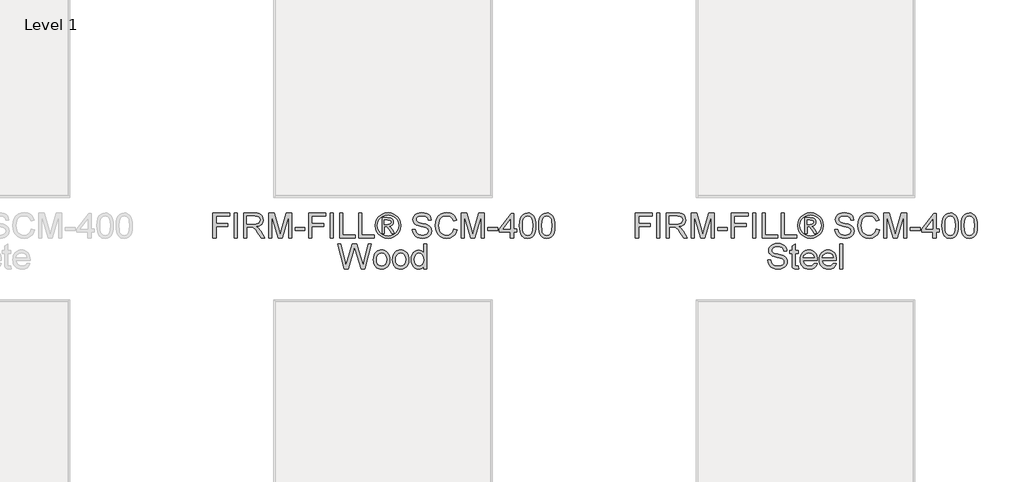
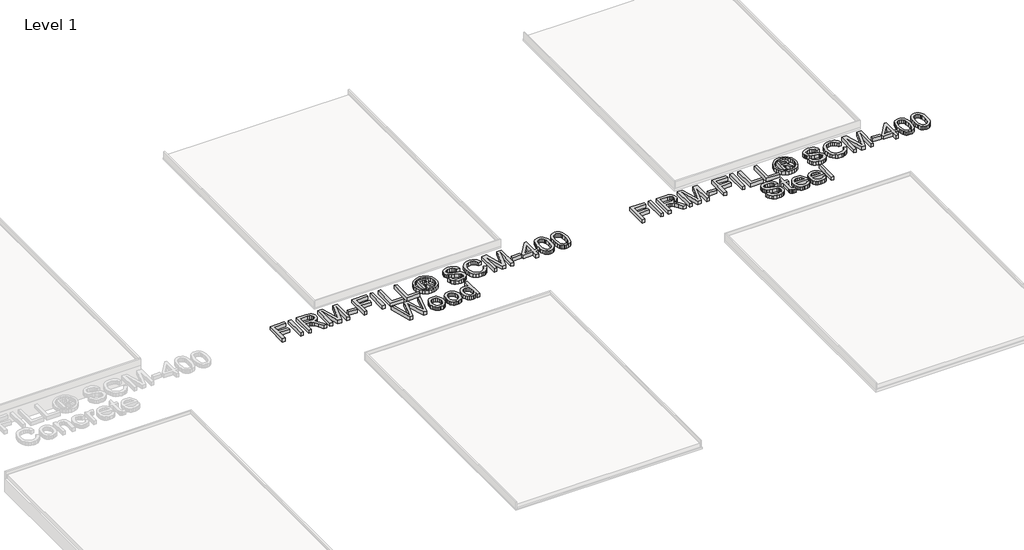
# One storey, part 8 of 10: 2 proxies.
"""IFC4 building model written with IfcOpenShell, lengths in millimetres."""

from ifc_helpers import new_model, si_unit, origin, origin_with_axes, place, context, project, spatial, polyline, outline, extrude, element, save

model = new_model("IFC4")

# Units and contexts
model_context = context("Model", 3, world=origin())
ifc_project = project(units=[si_unit("LENGTHUNIT", "METRE", prefix="MILLI")], contexts=[model_context])

# Site, building, storey
site = spatial("IfcSite", under=ifc_project)
building = spatial("IfcBuilding", under=site)
storey = spatial("IfcBuildingStorey", under=building, Name="Level 1", Elevation=0.0)

# Proxies
placement = place(None, origin())
element("IfcBuildingElementProxy", 1, Name="600mm Arial", ObjectType="600mm Arial", at=placement, inside=storey, context=model_context, shape_type="SweptSolid", body=[
    extrude(outline(polyline([(-312.4048462, -14373.5364307), (-312.4048462, -14073.4256615), (-110.7679231, -14073.4256615), (-110.7679231, -14110.9395076), (-274.891, -14110.9395076), (-274.891, -14200.0348922), (-134.2140769, -14200.0348922), (-134.2140769, -14237.5487384), (-274.891, -14237.5487384), (-274.891, -14373.5364307), (-312.4048462, -14373.5364307)])), origin_with_axes(), (0.0, 0.0, 1.0), 50.8),
    extrude(outline(polyline([(-54.4971539, -14373.5364307), (-54.4971539, -14073.4256615), (-16.9833077, -14073.4256615), (-16.9833077, -14373.5364307), (-54.4971539, -14373.5364307)])), origin_with_axes(), (0.0, 0.0, 1.0), 50.8),
    extrude(outline(polyline([(58.0443846, -14373.5364307), (58.0443846, -14073.4256615), (187.3645769, -14073.4256615), (222.1216682, -14075.449724), (247.4087115, -14081.5219115), (265.890875, -14092.7321038), (280.2333269, -14110.1701807), (289.437774, -14131.7937624), (292.5059231, -14155.5604692), (287.4228702, -14185.1246038), (272.1737115, -14209.6331615), (260.6223594, -14219.6206735), (246.3005144, -14227.6024403), (209.3453461, -14237.5487384), (230.6666923, -14253.5946999), (261.0734231, -14292.2075846), (311.1163077, -14373.5364307), (267.5211154, -14373.5364307), (228.4686154, -14311.3308538), (200.2599615, -14270.1535461), (180.4406346, -14250.7005653), (162.5995769, -14243.5568153), (140.8386154, -14242.2379692), (95.5582307, -14242.2379692), (95.5582307, -14373.5364307), (58.0443846, -14373.5364307)]), holes=[polyline([(95.5582307, -14204.724123), (179.5247692, -14204.724123), (203.6395048, -14203.3961182), (222.3506346, -14199.4121038), (236.4366442, -14192.5064788), (246.6760192, -14182.4136422), (252.9130625, -14170.2051567), (254.9920769, -14156.9525846), (251.0263798, -14138.6535942), (239.1292884, -14123.9081615), (218.6596971, -14114.1816711), (188.9765, -14110.9395076), (95.5582307, -14110.9395076), (95.5582307, -14204.724123)])]), origin_with_axes(), (0.0, 0.0, 1.0), 50.8),
    extrude(outline(polyline([(358.1551538, -14373.5364307), (358.1551538, -14073.4256615), (422.7053461, -14073.4256615), (484.1049615, -14284.9539307), (496.4874615, -14329.1352769), (509.8957307, -14281.2904692), (570.2695769, -14073.4256615), (634.8197692, -14073.4256615), (634.8197692, -14373.5364307), (597.3059231, -14373.5364307), (597.3059231, -14110.9395076), (521.9118846, -14373.5364307), (471.0630384, -14373.5364307), (395.669, -14110.9395076), (395.669, -14373.5364307), (358.1551538, -14373.5364307)])), origin_with_axes(), (0.0, 0.0, 1.0), 50.8),
    extrude(outline(polyline([(677.0228461, -14284.4410461), (677.0228461, -14246.9271999), (794.2536154, -14246.9271999), (794.2536154, -14284.4410461), (677.0228461, -14284.4410461)])), origin_with_axes(), (0.0, 0.0, 1.0), 50.8),
    extrude(outline(polyline([(841.1459231, -14373.5364307), (841.1459231, -14073.4256615), (1042.7828461, -14073.4256615), (1042.7828461, -14110.9395076), (878.6597692, -14110.9395076), (878.6597692, -14200.0348922), (1019.3366923, -14200.0348922), (1019.3366923, -14237.5487384), (878.6597692, -14237.5487384), (878.6597692, -14373.5364307), (841.1459231, -14373.5364307)])), origin_with_axes(), (0.0, 0.0, 1.0), 50.8),
    extrude(outline(polyline([(1099.0536154, -14373.5364307), (1099.0536154, -14073.4256615), (1136.5674615, -14073.4256615), (1136.5674615, -14373.5364307), (1099.0536154, -14373.5364307)])), origin_with_axes(), (0.0, 0.0, 1.0), 50.8),
    extrude(outline(polyline([(1211.5951538, -14373.5364307), (1211.5951538, -14073.4256615), (1249.109, -14073.4256615), (1249.109, -14336.0225846), (1399.1643846, -14336.0225846), (1399.1643846, -14373.5364307), (1211.5951538, -14373.5364307)])), origin_with_axes(), (0.0, 0.0, 1.0), 50.8),
    extrude(outline(polyline([(1441.3674615, -14373.5364307), (1441.3674615, -14073.4256615), (1478.8813077, -14073.4256615), (1478.8813077, -14336.0225846), (1628.9366923, -14336.0225846), (1628.9366923, -14373.5364307), (1441.3674615, -14373.5364307)])), origin_with_axes(), (0.0, 0.0, 1.0), 50.8),
    extrude(outline(polyline([(1722.7213077, -14317.2656615), (1722.7213077, -14129.6964307), (1783.3149615, -14129.6964307), (1810.0948654, -14130.9878009), (1828.3022692, -14134.8619115), (1840.8038317, -14141.9507096), (1850.4662115, -14152.8861422), (1856.6483029, -14166.1570317), (1858.709, -14180.2521999), (1855.1554423, -14199.3754692), (1844.4947692, -14215.8610461), (1827.9725577, -14227.6940269), (1806.8343846, -14232.8595076), (1821.4882307, -14242.824123), (1847.0591923, -14280.2646999), (1868.0874615, -14317.2656615), (1836.4351538, -14317.2656615), (1819.9495769, -14287.5183538), (1792.3270769, -14244.4360461), (1782.2342404, -14239.014123), (1768.3680384, -14237.5487384), (1750.8566923, -14237.5487384), (1750.8566923, -14317.2656615), (1722.7213077, -14317.2656615)]), holes=[polyline([(1750.8566923, -14209.4133538), (1786.4655384, -14209.4133538), (1807.9151057, -14207.6274163), (1821.2684231, -14202.2696038), (1828.2473173, -14193.9627047), (1830.5736154, -14183.3295076), (1826.1041923, -14169.7014307), (1813.6850577, -14160.7625846), (1784.1941923, -14157.8318153), (1750.8566923, -14157.8318153), (1750.8566923, -14209.4133538)])]), origin_with_axes(), (0.0, 0.0, 1.0), 50.8),
    extrude(outline(polyline([(1793.1330384, -14068.7364307), (1831.6543365, -14073.7370557), (1869.2597692, -14088.7389307), (1902.2950336, -14113.045998), (1927.1058269, -14145.9621999), (1942.6297452, -14183.9706134), (1947.8043846, -14223.5543153), (1942.7030144, -14262.7899884), (1927.3989038, -14300.4870076), (1902.8903461, -14333.2841471), (1870.1756346, -14357.8201807), (1832.5060913, -14373.1242913), (1793.1330384, -14378.2256615), (1753.8149375, -14373.1242913), (1716.1637115, -14357.8201807), (1683.421524, -14333.2841471), (1658.8305384, -14300.4870076), (1643.444, -14262.7899884), (1638.3151538, -14223.5543153), (1643.5172692, -14183.9706134), (1659.1236154, -14145.9621999), (1684.0168365, -14113.045998), (1717.0795769, -14088.7389307), (1754.6666923, -14073.7370557), (1793.1330384, -14068.7364307)]), holes=[polyline([(1793.1330384, -14096.8718153), (1761.6089519, -14100.9657336), (1730.9274615, -14113.2474884), (1703.9552259, -14133.1492432), (1683.5589038, -14160.1031615), (1670.7276298, -14191.2059499), (1666.4505384, -14223.5543153), (1670.6452019, -14255.6920317), (1683.2291923, -14286.4559499), (1703.3599134, -14313.2083778), (1730.1947692, -14333.311623), (1761.0227981, -14345.8956134), (1793.1330384, -14350.0902769), (1825.2890721, -14345.8956134), (1856.1079423, -14333.311623), (1882.8970048, -14313.2083778), (1902.9636154, -14286.4559499), (1915.4926538, -14255.6920317), (1919.669, -14223.5543153), (1915.4193846, -14191.2059499), (1902.6705384, -14160.1031615), (1882.3291682, -14133.1492432), (1855.3019807, -14113.2474884), (1824.5746971, -14100.9657336), (1793.1330384, -14096.8718153)])]), origin_with_axes(), (0.0, 0.0, 1.0), 50.8),
    extrude(outline(polyline([(2083.7920769, -14270.3733538), (2121.3059231, -14270.3733538), (2125.6104904, -14291.190974), (2133.3953461, -14307.9238346), (2145.5397211, -14321.2038826), (2162.9228461, -14331.6630653), (2184.1709231, -14338.4496278), (2207.9101538, -14340.7118153), (2228.8102019, -14338.9991471), (2247.1091923, -14333.8611422), (2261.9370529, -14325.7282576), (2272.4237115, -14315.0309499), (2278.6607548, -14302.7491951), (2280.7397692, -14289.8629692), (2279.1827981, -14277.3064547), (2274.5118846, -14266.4534499), (2265.0235192, -14257.1940509), (2249.0141923, -14249.4183538), (2194.3919807, -14235.0942192), (2158.5358509, -14225.6150124), (2135.5934231, -14216.5937384), (2116.9189279, -14203.9731134), (2103.6846731, -14188.6781615), (2095.7990721, -14171.0385942), (2093.1705384, -14151.384123), (2096.4218606, -14129.4125124), (2106.1758269, -14108.9246038), (2122.1759952, -14091.5597961), (2144.1659231, -14078.9574884), (2170.5611634, -14071.2916951), (2199.7772692, -14068.7364307), (2231.4295769, -14071.4107576), (2259.1253461, -14079.4337384), (2281.8754423, -14092.6405172), (2298.6907307, -14110.8662384), (2309.3330865, -14132.9752288), (2313.5643846, -14157.8318153), (2276.0505384, -14157.8318153), (2269.1632307, -14135.4480653), (2254.8024615, -14119.2921999), (2232.3637596, -14109.5107576), (2201.2426538, -14106.2502769), (2169.3888557, -14109.474123), (2147.5363077, -14119.1456615), (2134.8973654, -14133.3782096), (2130.6843846, -14150.2850846), (2133.6701057, -14164.7008057), (2142.6272692, -14176.2956615), (2163.8020769, -14186.6632576), (2203.8803461, -14197.2506615), (2245.2408269, -14207.3068634), (2270.2622692, -14216.0808538), (2291.6477259, -14229.6906134), (2306.5671731, -14246.4875846), (2315.3320048, -14266.2885942), (2318.2536154, -14288.9104692), (2314.8923894, -14312.0360701), (2304.8087115, -14333.787873), (2288.4147211, -14352.5081615), (2266.1225577, -14366.5392192), (2239.3151779, -14375.3040509), (2209.3755384, -14378.2256615), (2172.6218606, -14375.0750846), (2142.3708269, -14365.6233538), (2118.2744086, -14349.8338346), (2099.9845769, -14327.6698922), (2088.2431827, -14300.6701807), (2083.7920769, -14270.3733538)])), origin_with_axes(), (0.0, 0.0, 1.0), 50.8),
    extrude(outline(polyline([(2585.5397692, -14266.8564307), (2623.0536154, -14276.5279692), (2615.6305264, -14299.8573502), (2605.7437596, -14320.242224), (2593.3933149, -14337.6825906), (2578.5791923, -14352.1784499), (2561.6356827, -14363.574105), (2542.8970769, -14371.7138586), (2522.363375, -14376.5977108), (2500.0345769, -14378.2256615), (2456.5218125, -14373.2983057), (2421.9662115, -14358.5162384), (2395.4793846, -14334.3923442), (2376.1729423, -14301.4395076), (2364.3857548, -14262.6984019), (2360.4566923, -14221.2096999), (2364.8986394, -14177.4496519), (2378.2244807, -14139.6610461), (2399.7381586, -14109.0436663), (2428.7436154, -14086.7972961), (2463.1435192, -14073.2516471), (2500.8405384, -14068.7364307), (2541.9720529, -14074.5796519), (2559.8657728, -14081.8836783), (2575.9781346, -14092.1093153), (2590.0435372, -14104.9863826), (2601.7963798, -14120.2446999), (2618.3643846, -14157.9050846), (2580.8505384, -14166.8439307), (2567.84525, -14139.4870317), (2550.0774615, -14120.7209499), (2527.3273654, -14109.8679451), (2499.3751538, -14106.2502769), (2467.1550096, -14110.2617672), (2440.6865, -14122.2962384), (2420.6015721, -14141.0897961), (2407.5321731, -14165.3785461), (2400.3609471, -14192.8361903), (2397.9705384, -14221.1364307), (2400.8005625, -14255.7927769), (2409.2906346, -14285.7598922), (2423.7613077, -14309.8929451), (2444.5331346, -14327.0471038), (2469.4355144, -14337.2956374), (2496.2978461, -14340.7118153), (2527.6112836, -14336.0592192), (2553.7042884, -14322.1014307), (2573.4045529, -14298.9849884), (2585.5397692, -14266.8564307)])), origin_with_axes(), (0.0, 0.0, 1.0), 50.8),
    extrude(outline(polyline([(2674.6351538, -14373.5364307), (2674.6351538, -14073.4256615), (2739.1853461, -14073.4256615), (2800.5849615, -14284.9539307), (2812.9674615, -14329.1352769), (2826.3757307, -14281.2904692), (2886.7495769, -14073.4256615), (2951.2997692, -14073.4256615), (2951.2997692, -14373.5364307), (2913.7859231, -14373.5364307), (2913.7859231, -14110.9395076), (2838.3918846, -14373.5364307), (2787.5430384, -14373.5364307), (2712.149, -14110.9395076), (2712.149, -14373.5364307), (2674.6351538, -14373.5364307)])), origin_with_axes(), (0.0, 0.0, 1.0), 50.8),
    extrude(outline(polyline([(2993.5028461, -14284.4410461), (2993.5028461, -14246.9271999), (3110.7336154, -14246.9271999), (3110.7336154, -14284.4410461), (2993.5028461, -14284.4410461)])), origin_with_axes(), (0.0, 0.0, 1.0), 50.8),
    extrude(outline(polyline([(3265.4782307, -14373.5364307), (3265.4782307, -14303.1979692), (3129.4905384, -14303.1979692), (3129.4905384, -14265.684123), (3274.8566923, -14078.1148922), (3302.9920769, -14078.1148922), (3302.9920769, -14265.684123), (3340.5059231, -14265.684123), (3340.5059231, -14303.1979692), (3302.9920769, -14303.1979692), (3302.9920769, -14373.5364307), (3265.4782307, -14373.5364307)]), holes=[polyline([(3265.4782307, -14265.684123), (3265.4782307, -14149.7721999), (3175.6501538, -14265.684123), (3265.4782307, -14265.684123)])]), origin_with_axes(), (0.0, 0.0, 1.0), 50.8),
    extrude(outline(polyline([(3373.3305384, -14225.8989307), (3376.0872932, -14177.8617913), (3384.3575577, -14139.5511422), (3398.0589038, -14110.3808297), (3417.1089038, -14089.7646999), (3441.6449375, -14077.5104211), (3471.8043846, -14073.4256615), (3494.9208269, -14075.8435461), (3515.6193846, -14083.0971999), (3532.9292404, -14094.9027047), (3545.8795769, -14110.9761422), (3555.6610192, -14131.1801326), (3563.4641923, -14155.3772961), (3568.5747211, -14186.1045797), (3570.2782307, -14225.8989307), (3567.5489519, -14273.6613105), (3559.3611154, -14311.880373), (3545.7421971, -14341.0781615), (3526.7196731, -14361.7767192), (3502.1286875, -14374.1134259), (3471.8043846, -14378.2256615), (3451.1424615, -14376.439724), (3432.8251538, -14371.0819115), (3416.8524615, -14362.152224), (3403.2243846, -14349.6506615), (3390.1458269, -14327.0516831), (3380.804, -14298.8934019), (3375.1989038, -14265.1758177), (3373.3305384, -14225.8989307)]), holes=[polyline([(3410.8443846, -14225.8256615), (3415.2405384, -14284.8348682), (3420.7357307, -14305.0182516), (3428.429, -14318.9874884), (3448.0651538, -14335.2807336), (3471.8043846, -14340.7118153), (3495.5436154, -14335.2624163), (3515.1797692, -14318.9142192), (3522.8730384, -14304.9220858), (3528.3682307, -14284.7432817), (3532.7643846, -14225.8256615), (3528.5147692, -14168.1444596), (3523.20275, -14148.0274764), (3515.7659231, -14133.7262384), (3496.1664038, -14116.6361903), (3471.3647692, -14110.9395076), (3447.8819807, -14115.9584499), (3429.0151538, -14131.0152769), (3421.0654423, -14146.5849884), (3415.3870769, -14167.576623), (3410.8443846, -14225.8256615)])]), origin_with_axes(), (0.0, 0.0, 1.0), 50.8),
    extrude(outline(polyline([(3603.1028461, -14225.8989307), (3605.8596009, -14177.8617913), (3614.1298654, -14139.5511422), (3627.8312115, -14110.3808297), (3646.8812115, -14089.7646999), (3671.4172452, -14077.5104211), (3701.5766923, -14073.4256615), (3724.6931346, -14075.8435461), (3745.3916923, -14083.0971999), (3762.7015481, -14094.9027047), (3775.6518846, -14110.9761422), (3785.4333269, -14131.1801326), (3793.2365, -14155.3772961), (3798.3470288, -14186.1045797), (3800.0505384, -14225.8989307), (3797.3212596, -14273.6613105), (3789.1334231, -14311.880373), (3775.5145048, -14341.0781615), (3756.4919807, -14361.7767192), (3731.9009952, -14374.1134259), (3701.5766923, -14378.2256615), (3680.9147692, -14376.439724), (3662.5974615, -14371.0819115), (3646.6247692, -14362.152224), (3632.9966923, -14349.6506615), (3619.9181346, -14327.0516831), (3610.5763077, -14298.8934019), (3604.9712115, -14265.1758177), (3603.1028461, -14225.8989307)]), holes=[polyline([(3640.6166923, -14225.8256615), (3645.0128461, -14284.8348682), (3650.5080384, -14305.0182516), (3658.2013077, -14318.9874884), (3677.8374615, -14335.2807336), (3701.5766923, -14340.7118153), (3725.3159231, -14335.2624163), (3744.9520769, -14318.9142192), (3752.6453461, -14304.9220858), (3758.1405384, -14284.7432817), (3762.5366923, -14225.8256615), (3758.2870769, -14168.1444596), (3752.9750577, -14148.0274764), (3745.5382307, -14133.7262384), (3725.9387115, -14116.6361903), (3701.1370769, -14110.9395076), (3677.6542884, -14115.9584499), (3658.7874615, -14131.0152769), (3650.83775, -14146.5849884), (3645.1593846, -14167.576623), (3640.6166923, -14225.8256615)])]), origin_with_axes(), (0.0, 0.0, 1.0), 50.8),
    extrude(outline(polyline([(1267.6461154, -14743.9856615), (1185.8043846, -14443.8748922), (1224.4905384, -14443.8748922), (1271.969, -14641.1156615), (1286.6228461, -14702.0023922), (1302.3024615, -14648.1495076), (1361.7970769, -14443.8748922), (1417.5549615, -14443.8748922), (1460.7838077, -14591.9520076), (1479.3026057, -14646.9039307), (1492.949, -14702.0023922), (1507.1632307, -14642.874123), (1555.0813077, -14443.8748922), (1593.7674615, -14443.8748922), (1511.8524615, -14743.9856615), (1471.7741923, -14743.9856615), (1399.8238077, -14512.4548922), (1389.7859231, -14480.1431615), (1378.5024615, -14519.049123), (1312.9265, -14743.9856615), (1267.6461154, -14743.9856615)])), origin_with_axes(), (0.0, 0.0, 1.0), 50.8),
    extrude(outline(polyline([(1617.2136154, -14633.7887384), (1619.2422572, -14605.2457937), (1625.3281827, -14580.6502288), (1635.4713918, -14560.0020437), (1649.6718846, -14543.3012384), (1663.9685432, -14532.6268273), (1679.7489038, -14525.002248), (1697.0129663, -14520.4275004), (1715.7607307, -14518.9025846), (1736.4569988, -14520.7595016), (1755.1704182, -14526.3302528), (1771.9009892, -14535.6148382), (1786.6487115, -14548.6132576), (1798.6854723, -14564.8858959), (1807.2831586, -14583.9931374), (1812.4417704, -14605.9349824), (1814.1613077, -14630.7114307), (1811.1206346, -14668.6099403), (1801.9986154, -14697.4596999), (1787.0608509, -14719.0649644), (1766.5729423, -14735.2299884), (1742.238399, -14745.3136663), (1715.7607307, -14748.6748922), (1694.7622271, -14746.8248442), (1675.8747932, -14741.2746999), (1659.0984291, -14732.0244596), (1644.4331346, -14719.074123), (1632.5245949, -14702.643498), (1624.0184952, -14682.9523922), (1618.9148353, -14660.0008057), (1617.2136154, -14633.7887384)]), holes=[polyline([(1654.7274615, -14633.7154692), (1659.0686634, -14667.666599), (1672.0922692, -14691.8546038), (1691.6917884, -14706.3344355), (1715.7607307, -14711.1610461), (1739.7197692, -14706.3069596), (1759.2826538, -14691.7446999), (1772.3062596, -14667.2361422), (1776.6474615, -14632.5431615), (1772.2787836, -14599.5811663), (1759.17275, -14575.722873), (1739.5823894, -14561.2430413), (1715.7607307, -14556.4164307), (1691.6917884, -14561.224724), (1672.0922692, -14575.6496038), (1659.0686634, -14599.7826567), (1654.7274615, -14633.7154692)])]), origin_with_axes(), (0.0, 0.0, 1.0), 50.8),
    extrude(outline(polyline([(1846.9859231, -14633.7887384), (1849.0145649, -14605.2457937), (1855.1004904, -14580.6502288), (1865.2436995, -14560.0020437), (1879.4441923, -14543.3012384), (1893.7408509, -14532.6268273), (1909.5212115, -14525.002248), (1926.785274, -14520.4275004), (1945.5330384, -14518.9025846), (1966.2293065, -14520.7595016), (1984.9427259, -14526.3302528), (2001.6732969, -14535.6148382), (2016.4210192, -14548.6132576), (2028.45778, -14564.8858959), (2037.0554663, -14583.9931374), (2042.2140781, -14605.9349824), (2043.9336154, -14630.7114307), (2040.8929423, -14668.6099403), (2031.7709231, -14697.4596999), (2016.8331586, -14719.0649644), (1996.34525, -14735.2299884), (1972.0107067, -14745.3136663), (1945.5330384, -14748.6748922), (1924.5345348, -14746.8248442), (1905.6471009, -14741.2746999), (1888.8707368, -14732.0244596), (1874.2054423, -14719.074123), (1862.2969026, -14702.643498), (1853.7908029, -14682.9523922), (1848.687143, -14660.0008057), (1846.9859231, -14633.7887384)]), holes=[polyline([(1884.4997692, -14633.7154692), (1888.8409711, -14667.666599), (1901.8645769, -14691.8546038), (1921.4640961, -14706.3344355), (1945.5330384, -14711.1610461), (1969.4920769, -14706.3069596), (1989.0549615, -14691.7446999), (2002.0785673, -14667.2361422), (2006.4197692, -14632.5431615), (2002.0510913, -14599.5811663), (1988.9450577, -14575.722873), (1969.3546971, -14561.2430413), (1945.5330384, -14556.4164307), (1921.4640961, -14561.224724), (1901.8645769, -14575.6496038), (1888.8409711, -14599.7826567), (1884.4997692, -14633.7154692)])]), origin_with_axes(), (0.0, 0.0, 1.0), 50.8),
    extrude(outline(polyline([(2222.1243846, -14743.9856615), (2222.1243846, -14708.596623), (2210.9004543, -14726.1308658), (2197.3044327, -14738.6553249), (2181.3363197, -14746.1700004), (2162.9961154, -14748.6748922), (2138.744, -14745.0480653), (2116.5434231, -14734.1675846), (2097.7498654, -14716.7936182), (2083.7188077, -14693.6863346), (2074.9814519, -14665.7799163), (2072.069, -14634.0085461), (2074.7524856, -14602.630998), (2082.8029423, -14574.294123), (2096.2112115, -14550.6098442), (2114.9681346, -14533.1900846), (2137.6541202, -14522.4744596), (2162.8495769, -14518.9025846), (2181.2035192, -14521.457849), (2197.4326538, -14529.1236422), (2211.1889519, -14540.8741951), (2222.1243846, -14555.6837384), (2222.1243846, -14443.8748922), (2259.6382307, -14443.8748922), (2259.6382307, -14743.9856615), (2222.1243846, -14743.9856615)]), holes=[polyline([(2109.5828461, -14633.8620076), (2113.8141442, -14667.7948201), (2126.5080384, -14691.927873), (2144.9535673, -14706.3527528), (2166.4397692, -14711.1610461), (2187.9168125, -14706.5725605), (2205.89525, -14692.8071038), (2218.0671009, -14669.6082336), (2222.1243846, -14636.7195076), (2217.9938317, -14600.7626326), (2205.6021731, -14575.8327769), (2187.1658029, -14561.2705172), (2164.9011154, -14556.4164307), (2143.1951057, -14561.0781855), (2125.409, -14575.0634499), (2113.5393846, -14599.086599), (2109.5828461, -14633.8620076)])]), origin_with_axes(), (0.0, 0.0, 1.0), 50.8),
])
element("IfcBuildingElementProxy", 2, Name="600mm Arial", ObjectType="600mm Arial", at=placement, inside=storey, context=model_context, shape_type="SweptSolid", body=[
    extrude(outline(polyline([(4767.5951538, -14373.5364307), (4767.5951538, -14073.4256615), (4969.2320769, -14073.4256615), (4969.2320769, -14110.9395076), (4805.109, -14110.9395076), (4805.109, -14200.0348922), (4945.7859231, -14200.0348922), (4945.7859231, -14237.5487384), (4805.109, -14237.5487384), (4805.109, -14373.5364307), (4767.5951538, -14373.5364307)])), origin_with_axes(), (0.0, 0.0, 1.0), 50.8),
    extrude(outline(polyline([(5025.5028461, -14373.5364307), (5025.5028461, -14073.4256615), (5063.0166923, -14073.4256615), (5063.0166923, -14373.5364307), (5025.5028461, -14373.5364307)])), origin_with_axes(), (0.0, 0.0, 1.0), 50.8),
    extrude(outline(polyline([(5138.0443846, -14373.5364307), (5138.0443846, -14073.4256615), (5267.3645769, -14073.4256615), (5302.1216682, -14075.449724), (5327.4087115, -14081.5219115), (5345.890875, -14092.7321038), (5360.2333269, -14110.1701807), (5369.437774, -14131.7937624), (5372.5059231, -14155.5604692), (5367.4228702, -14185.1246038), (5352.1737115, -14209.6331615), (5340.6223594, -14219.6206735), (5326.3005144, -14227.6024403), (5289.3453461, -14237.5487384), (5310.6666923, -14253.5946999), (5341.0734231, -14292.2075846), (5391.1163077, -14373.5364307), (5347.5211154, -14373.5364307), (5308.4686154, -14311.3308538), (5280.2599615, -14270.1535461), (5260.4406346, -14250.7005653), (5242.5995769, -14243.5568153), (5220.8386154, -14242.2379692), (5175.5582307, -14242.2379692), (5175.5582307, -14373.5364307), (5138.0443846, -14373.5364307)]), holes=[polyline([(5175.5582307, -14204.724123), (5259.5247692, -14204.724123), (5283.6395048, -14203.3961182), (5302.3506346, -14199.4121038), (5316.4366442, -14192.5064788), (5326.6760192, -14182.4136422), (5332.9130625, -14170.2051567), (5334.9920769, -14156.9525846), (5331.0263798, -14138.6535942), (5319.1292884, -14123.9081615), (5298.6596971, -14114.1816711), (5268.9765, -14110.9395076), (5175.5582307, -14110.9395076), (5175.5582307, -14204.724123)])]), origin_with_axes(), (0.0, 0.0, 1.0), 50.8),
    extrude(outline(polyline([(5438.1551538, -14373.5364307), (5438.1551538, -14073.4256615), (5502.7053461, -14073.4256615), (5564.1049615, -14284.9539307), (5576.4874615, -14329.1352769), (5589.8957307, -14281.2904692), (5650.2695769, -14073.4256615), (5714.8197692, -14073.4256615), (5714.8197692, -14373.5364307), (5677.3059231, -14373.5364307), (5677.3059231, -14110.9395076), (5601.9118846, -14373.5364307), (5551.0630384, -14373.5364307), (5475.669, -14110.9395076), (5475.669, -14373.5364307), (5438.1551538, -14373.5364307)])), origin_with_axes(), (0.0, 0.0, 1.0), 50.8),
    extrude(outline(polyline([(5757.0228461, -14284.4410461), (5757.0228461, -14246.9271999), (5874.2536154, -14246.9271999), (5874.2536154, -14284.4410461), (5757.0228461, -14284.4410461)])), origin_with_axes(), (0.0, 0.0, 1.0), 50.8),
    extrude(outline(polyline([(5921.1459231, -14373.5364307), (5921.1459231, -14073.4256615), (6122.7828461, -14073.4256615), (6122.7828461, -14110.9395076), (5958.6597692, -14110.9395076), (5958.6597692, -14200.0348922), (6099.3366923, -14200.0348922), (6099.3366923, -14237.5487384), (5958.6597692, -14237.5487384), (5958.6597692, -14373.5364307), (5921.1459231, -14373.5364307)])), origin_with_axes(), (0.0, 0.0, 1.0), 50.8),
    extrude(outline(polyline([(6179.0536154, -14373.5364307), (6179.0536154, -14073.4256615), (6216.5674615, -14073.4256615), (6216.5674615, -14373.5364307), (6179.0536154, -14373.5364307)])), origin_with_axes(), (0.0, 0.0, 1.0), 50.8),
    extrude(outline(polyline([(6291.5951538, -14373.5364307), (6291.5951538, -14073.4256615), (6329.109, -14073.4256615), (6329.109, -14336.0225846), (6479.1643846, -14336.0225846), (6479.1643846, -14373.5364307), (6291.5951538, -14373.5364307)])), origin_with_axes(), (0.0, 0.0, 1.0), 50.8),
    extrude(outline(polyline([(6521.3674615, -14373.5364307), (6521.3674615, -14073.4256615), (6558.8813077, -14073.4256615), (6558.8813077, -14336.0225846), (6708.9366923, -14336.0225846), (6708.9366923, -14373.5364307), (6521.3674615, -14373.5364307)])), origin_with_axes(), (0.0, 0.0, 1.0), 50.8),
    extrude(outline(polyline([(6802.7213077, -14317.2656615), (6802.7213077, -14129.6964307), (6863.3149615, -14129.6964307), (6890.0948654, -14130.9878009), (6908.3022692, -14134.8619115), (6920.8038317, -14141.9507096), (6930.4662115, -14152.8861422), (6936.6483029, -14166.1570317), (6938.709, -14180.2521999), (6935.1554423, -14199.3754692), (6924.4947692, -14215.8610461), (6907.9725577, -14227.6940269), (6886.8343846, -14232.8595076), (6901.4882307, -14242.824123), (6927.0591923, -14280.2646999), (6948.0874615, -14317.2656615), (6916.4351538, -14317.2656615), (6899.9495769, -14287.5183538), (6872.3270769, -14244.4360461), (6862.2342404, -14239.014123), (6848.3680384, -14237.5487384), (6830.8566923, -14237.5487384), (6830.8566923, -14317.2656615), (6802.7213077, -14317.2656615)]), holes=[polyline([(6830.8566923, -14209.4133538), (6866.4655384, -14209.4133538), (6887.9151057, -14207.6274163), (6901.2684231, -14202.2696038), (6908.2473173, -14193.9627047), (6910.5736154, -14183.3295076), (6906.1041923, -14169.7014307), (6893.6850577, -14160.7625846), (6864.1941923, -14157.8318153), (6830.8566923, -14157.8318153), (6830.8566923, -14209.4133538)])]), origin_with_axes(), (0.0, 0.0, 1.0), 50.8),
    extrude(outline(polyline([(6873.1330384, -14068.7364307), (6911.6543365, -14073.7370557), (6949.2597692, -14088.7389307), (6982.2950336, -14113.045998), (7007.1058269, -14145.9621999), (7022.6297452, -14183.9706134), (7027.8043846, -14223.5543153), (7022.7030144, -14262.7899884), (7007.3989038, -14300.4870076), (6982.8903461, -14333.2841471), (6950.1756346, -14357.8201807), (6912.5060913, -14373.1242913), (6873.1330384, -14378.2256615), (6833.8149375, -14373.1242913), (6796.1637115, -14357.8201807), (6763.421524, -14333.2841471), (6738.8305384, -14300.4870076), (6723.444, -14262.7899884), (6718.3151538, -14223.5543153), (6723.5172692, -14183.9706134), (6739.1236154, -14145.9621999), (6764.0168365, -14113.045998), (6797.0795769, -14088.7389307), (6834.6666923, -14073.7370557), (6873.1330384, -14068.7364307)]), holes=[polyline([(6873.1330384, -14096.8718153), (6841.6089519, -14100.9657336), (6810.9274615, -14113.2474884), (6783.9552259, -14133.1492432), (6763.5589038, -14160.1031615), (6750.7276298, -14191.2059499), (6746.4505384, -14223.5543153), (6750.6452019, -14255.6920317), (6763.2291923, -14286.4559499), (6783.3599134, -14313.2083778), (6810.1947692, -14333.311623), (6841.0227981, -14345.8956134), (6873.1330384, -14350.0902769), (6905.2890721, -14345.8956134), (6936.1079423, -14333.311623), (6962.8970048, -14313.2083778), (6982.9636154, -14286.4559499), (6995.4926538, -14255.6920317), (6999.669, -14223.5543153), (6995.4193846, -14191.2059499), (6982.6705384, -14160.1031615), (6962.3291682, -14133.1492432), (6935.3019807, -14113.2474884), (6904.5746971, -14100.9657336), (6873.1330384, -14096.8718153)])]), origin_with_axes(), (0.0, 0.0, 1.0), 50.8),
    extrude(outline(polyline([(7163.7920769, -14270.3733538), (7201.3059231, -14270.3733538), (7205.6104904, -14291.190974), (7213.3953461, -14307.9238346), (7225.5397211, -14321.2038826), (7242.9228461, -14331.6630653), (7264.1709231, -14338.4496278), (7287.9101538, -14340.7118153), (7308.8102019, -14338.9991471), (7327.1091923, -14333.8611422), (7341.9370529, -14325.7282576), (7352.4237115, -14315.0309499), (7358.6607548, -14302.7491951), (7360.7397692, -14289.8629692), (7359.1827981, -14277.3064547), (7354.5118846, -14266.4534499), (7345.0235192, -14257.1940509), (7329.0141923, -14249.4183538), (7274.3919807, -14235.0942192), (7238.5358509, -14225.6150124), (7215.5934231, -14216.5937384), (7196.9189279, -14203.9731134), (7183.6846731, -14188.6781615), (7175.7990721, -14171.0385942), (7173.1705384, -14151.384123), (7176.4218606, -14129.4125124), (7186.1758269, -14108.9246038), (7202.1759952, -14091.5597961), (7224.1659231, -14078.9574884), (7250.5611634, -14071.2916951), (7279.7772692, -14068.7364307), (7311.4295769, -14071.4107576), (7339.1253461, -14079.4337384), (7361.8754423, -14092.6405172), (7378.6907307, -14110.8662384), (7389.3330865, -14132.9752288), (7393.5643846, -14157.8318153), (7356.0505384, -14157.8318153), (7349.1632307, -14135.4480653), (7334.8024615, -14119.2921999), (7312.3637596, -14109.5107576), (7281.2426538, -14106.2502769), (7249.3888557, -14109.474123), (7227.5363077, -14119.1456615), (7214.8973654, -14133.3782096), (7210.6843846, -14150.2850846), (7213.6701057, -14164.7008057), (7222.6272692, -14176.2956615), (7243.8020769, -14186.6632576), (7283.8803461, -14197.2506615), (7325.2408269, -14207.3068634), (7350.2622692, -14216.0808538), (7371.6477259, -14229.6906134), (7386.5671731, -14246.4875846), (7395.3320048, -14266.2885942), (7398.2536154, -14288.9104692), (7394.8923894, -14312.0360701), (7384.8087115, -14333.787873), (7368.4147211, -14352.5081615), (7346.1225577, -14366.5392192), (7319.3151779, -14375.3040509), (7289.3755384, -14378.2256615), (7252.6218606, -14375.0750846), (7222.3708269, -14365.6233538), (7198.2744086, -14349.8338346), (7179.9845769, -14327.6698922), (7168.2431827, -14300.6701807), (7163.7920769, -14270.3733538)])), origin_with_axes(), (0.0, 0.0, 1.0), 50.8),
    extrude(outline(polyline([(7665.5397692, -14266.8564307), (7703.0536154, -14276.5279692), (7695.6305264, -14299.8573502), (7685.7437596, -14320.242224), (7673.3933149, -14337.6825906), (7658.5791923, -14352.1784499), (7641.6356827, -14363.574105), (7622.8970769, -14371.7138586), (7602.363375, -14376.5977108), (7580.0345769, -14378.2256615), (7536.5218125, -14373.2983057), (7501.9662115, -14358.5162384), (7475.4793846, -14334.3923442), (7456.1729423, -14301.4395076), (7444.3857548, -14262.6984019), (7440.4566923, -14221.2096999), (7444.8986394, -14177.4496519), (7458.2244807, -14139.6610461), (7479.7381586, -14109.0436663), (7508.7436154, -14086.7972961), (7543.1435192, -14073.2516471), (7580.8405384, -14068.7364307), (7621.9720529, -14074.5796519), (7639.8657728, -14081.8836783), (7655.9781346, -14092.1093153), (7670.0435372, -14104.9863826), (7681.7963798, -14120.2446999), (7698.3643846, -14157.9050846), (7660.8505384, -14166.8439307), (7647.84525, -14139.4870317), (7630.0774615, -14120.7209499), (7607.3273654, -14109.8679451), (7579.3751538, -14106.2502769), (7547.1550096, -14110.2617672), (7520.6865, -14122.2962384), (7500.6015721, -14141.0897961), (7487.5321731, -14165.3785461), (7480.3609471, -14192.8361903), (7477.9705384, -14221.1364307), (7480.8005625, -14255.7927769), (7489.2906346, -14285.7598922), (7503.7613077, -14309.8929451), (7524.5331346, -14327.0471038), (7549.4355144, -14337.2956374), (7576.2978461, -14340.7118153), (7607.6112836, -14336.0592192), (7633.7042884, -14322.1014307), (7653.4045529, -14298.9849884), (7665.5397692, -14266.8564307)])), origin_with_axes(), (0.0, 0.0, 1.0), 50.8),
    extrude(outline(polyline([(7754.6351538, -14373.5364307), (7754.6351538, -14073.4256615), (7819.1853461, -14073.4256615), (7880.5849615, -14284.9539307), (7892.9674615, -14329.1352769), (7906.3757307, -14281.2904692), (7966.7495769, -14073.4256615), (8031.2997692, -14073.4256615), (8031.2997692, -14373.5364307), (7993.7859231, -14373.5364307), (7993.7859231, -14110.9395076), (7918.3918846, -14373.5364307), (7867.5430384, -14373.5364307), (7792.149, -14110.9395076), (7792.149, -14373.5364307), (7754.6351538, -14373.5364307)])), origin_with_axes(), (0.0, 0.0, 1.0), 50.8),
    extrude(outline(polyline([(8073.5028461, -14284.4410461), (8073.5028461, -14246.9271999), (8190.7336154, -14246.9271999), (8190.7336154, -14284.4410461), (8073.5028461, -14284.4410461)])), origin_with_axes(), (0.0, 0.0, 1.0), 50.8),
    extrude(outline(polyline([(8345.4782307, -14373.5364307), (8345.4782307, -14303.1979692), (8209.4905384, -14303.1979692), (8209.4905384, -14265.684123), (8354.8566923, -14078.1148922), (8382.9920769, -14078.1148922), (8382.9920769, -14265.684123), (8420.5059231, -14265.684123), (8420.5059231, -14303.1979692), (8382.9920769, -14303.1979692), (8382.9920769, -14373.5364307), (8345.4782307, -14373.5364307)]), holes=[polyline([(8345.4782307, -14265.684123), (8345.4782307, -14149.7721999), (8255.6501538, -14265.684123), (8345.4782307, -14265.684123)])]), origin_with_axes(), (0.0, 0.0, 1.0), 50.8),
    extrude(outline(polyline([(8453.3305384, -14225.8989307), (8456.0872932, -14177.8617913), (8464.3575577, -14139.5511422), (8478.0589038, -14110.3808297), (8497.1089038, -14089.7646999), (8521.6449375, -14077.5104211), (8551.8043846, -14073.4256615), (8574.9208269, -14075.8435461), (8595.6193846, -14083.0971999), (8612.9292404, -14094.9027047), (8625.8795769, -14110.9761422), (8635.6610192, -14131.1801326), (8643.4641923, -14155.3772961), (8648.5747211, -14186.1045797), (8650.2782307, -14225.8989307), (8647.5489519, -14273.6613105), (8639.3611154, -14311.880373), (8625.7421971, -14341.0781615), (8606.7196731, -14361.7767192), (8582.1286875, -14374.1134259), (8551.8043846, -14378.2256615), (8531.1424615, -14376.439724), (8512.8251538, -14371.0819115), (8496.8524615, -14362.152224), (8483.2243846, -14349.6506615), (8470.1458269, -14327.0516831), (8460.804, -14298.8934019), (8455.1989038, -14265.1758177), (8453.3305384, -14225.8989307)]), holes=[polyline([(8490.8443846, -14225.8256615), (8495.2405384, -14284.8348682), (8500.7357307, -14305.0182516), (8508.429, -14318.9874884), (8528.0651538, -14335.2807336), (8551.8043846, -14340.7118153), (8575.5436154, -14335.2624163), (8595.1797692, -14318.9142192), (8602.8730384, -14304.9220858), (8608.3682307, -14284.7432817), (8612.7643846, -14225.8256615), (8608.5147692, -14168.1444596), (8603.20275, -14148.0274764), (8595.7659231, -14133.7262384), (8576.1664038, -14116.6361903), (8551.3647692, -14110.9395076), (8527.8819807, -14115.9584499), (8509.0151538, -14131.0152769), (8501.0654423, -14146.5849884), (8495.3870769, -14167.576623), (8490.8443846, -14225.8256615)])]), origin_with_axes(), (0.0, 0.0, 1.0), 50.8),
    extrude(outline(polyline([(8683.1028461, -14225.8989307), (8685.8596009, -14177.8617913), (8694.1298654, -14139.5511422), (8707.8312115, -14110.3808297), (8726.8812115, -14089.7646999), (8751.4172452, -14077.5104211), (8781.5766923, -14073.4256615), (8804.6931346, -14075.8435461), (8825.3916923, -14083.0971999), (8842.7015481, -14094.9027047), (8855.6518846, -14110.9761422), (8865.4333269, -14131.1801326), (8873.2365, -14155.3772961), (8878.3470288, -14186.1045797), (8880.0505384, -14225.8989307), (8877.3212596, -14273.6613105), (8869.1334231, -14311.880373), (8855.5145048, -14341.0781615), (8836.4919807, -14361.7767192), (8811.9009952, -14374.1134259), (8781.5766923, -14378.2256615), (8760.9147692, -14376.439724), (8742.5974615, -14371.0819115), (8726.6247692, -14362.152224), (8712.9966923, -14349.6506615), (8699.9181346, -14327.0516831), (8690.5763077, -14298.8934019), (8684.9712115, -14265.1758177), (8683.1028461, -14225.8989307)]), holes=[polyline([(8720.6166923, -14225.8256615), (8725.0128461, -14284.8348682), (8730.5080384, -14305.0182516), (8738.2013077, -14318.9874884), (8757.8374615, -14335.2807336), (8781.5766923, -14340.7118153), (8805.3159231, -14335.2624163), (8824.9520769, -14318.9142192), (8832.6453461, -14304.9220858), (8838.1405384, -14284.7432817), (8842.5366923, -14225.8256615), (8838.2870769, -14168.1444596), (8832.9750577, -14148.0274764), (8825.5382307, -14133.7262384), (8805.9387115, -14116.6361903), (8781.1370769, -14110.9395076), (8757.6542884, -14115.9584499), (8738.7874615, -14131.0152769), (8730.83775, -14146.5849884), (8725.1593846, -14167.576623), (8720.6166923, -14225.8256615)])]), origin_with_axes(), (0.0, 0.0, 1.0), 50.8),
    extrude(outline(polyline([(6359.589, -14640.8225846), (6397.1028461, -14640.8225846), (6401.4074134, -14661.6402047), (6409.1922692, -14678.3730653), (6421.3366442, -14691.6531134), (6438.7197692, -14702.1122961), (6459.9678461, -14708.8988586), (6483.7070769, -14711.1610461), (6504.607125, -14709.4483778), (6522.9061154, -14704.310373), (6537.7339759, -14696.1774884), (6548.2206346, -14685.4801807), (6554.4576779, -14673.1984259), (6556.5366923, -14660.3121999), (6554.9797211, -14647.7556855), (6550.3088077, -14636.9026807), (6540.8204423, -14627.6432817), (6524.8111154, -14619.8675846), (6470.1889038, -14605.5434499), (6434.332774, -14596.0642432), (6411.3903461, -14587.0429692), (6392.7158509, -14574.4223442), (6379.4815961, -14559.1273922), (6371.5959952, -14541.4878249), (6368.9674615, -14521.8333538), (6372.2187836, -14499.8617432), (6381.97275, -14479.3738346), (6397.9729182, -14462.0090269), (6419.9628461, -14449.4067192), (6446.3580865, -14441.7409259), (6475.5741923, -14439.1856615), (6507.2265, -14441.8599884), (6534.9222692, -14449.8829692), (6557.6723654, -14463.089748), (6574.4876538, -14481.3154692), (6585.1300096, -14503.4244596), (6589.3613077, -14528.2810461), (6551.8474615, -14528.2810461), (6544.9601538, -14505.8972961), (6530.5993846, -14489.7414307), (6508.1606827, -14479.9599884), (6477.0395769, -14476.6995076), (6445.1857788, -14479.9233538), (6423.3332307, -14489.5948922), (6410.6942884, -14503.8274403), (6406.4813077, -14520.7343153), (6409.4670288, -14535.1500365), (6418.4241923, -14546.7448922), (6439.599, -14557.1124884), (6479.6772692, -14567.6998922), (6521.03775, -14577.7560942), (6546.0591923, -14586.5300846), (6567.444649, -14600.1398442), (6582.3640961, -14616.9368153), (6591.1289279, -14636.7378249), (6594.0505384, -14659.3596999), (6590.6893125, -14682.4853009), (6580.6056346, -14704.2371038), (6564.2116442, -14722.9573922), (6541.9194807, -14736.9884499), (6515.1121009, -14745.7532817), (6485.1724615, -14748.6748922), (6448.4187836, -14745.5243153), (6418.16775, -14736.0725846), (6394.0713317, -14720.2830653), (6375.7815, -14698.119123), (6364.0401057, -14671.1194115), (6359.589, -14640.8225846)])), origin_with_axes(), (0.0, 0.0, 1.0), 50.8),
    extrude(outline(polyline([(6725.349, -14712.6996999), (6730.0382307, -14745.0846999), (6701.9761154, -14748.6748922), (6683.9702019, -14747.1179211), (6670.5436154, -14742.4470076), (6661.05525, -14735.2483057), (6654.864, -14726.1079692), (6651.4569807, -14710.4100365), (6650.3213077, -14683.5385461), (6650.3213077, -14561.1056615), (6622.1859231, -14561.1056615), (6622.1859231, -14523.5918153), (6650.3213077, -14523.5918153), (6650.3213077, -14470.0320076), (6687.8351538, -14447.9779692), (6687.8351538, -14523.5918153), (6725.349, -14523.5918153), (6725.349, -14561.1056615), (6687.8351538, -14561.1056615), (6687.8351538, -14682.4395076), (6689.8134231, -14701.7825846), (6696.2244807, -14708.6332576), (6709.0099615, -14711.1610461), (6725.349, -14712.6996999)])), origin_with_axes(), (0.0, 0.0, 1.0), 50.8),
    extrude(outline(polyline([(6917.1678461, -14678.3364307), (6953.949, -14683.0256615), (6940.6964279, -14710.739748), (6919.5490961, -14731.456623), (6890.9832548, -14744.3703249), (6855.4751538, -14748.6748922), (6832.1984351, -14746.8179752), (6811.4586634, -14741.247224), (6793.2558389, -14731.9626386), (6777.5899615, -14718.9642192), (6764.9922331, -14702.6137324), (6755.9938557, -14683.2729451), (6750.5948293, -14660.9418574), (6748.7951538, -14635.6204692), (6750.6131466, -14609.4404572), (6756.067125, -14586.3652288), (6765.1570889, -14566.3947841), (6777.8830384, -14549.529123), (6793.5077019, -14536.1300124), (6811.2938077, -14526.5592192), (6831.2413557, -14520.8167432), (6853.3503461, -14518.9025846), (6874.7472512, -14520.8121639), (6894.0971971, -14526.5409019), (6911.4001839, -14536.0887985), (6926.6562115, -14549.4558538), (6939.1096911, -14566.2848802), (6948.0050336, -14586.2186903), (6953.3422392, -14609.2572841), (6955.1213077, -14635.4006615), (6954.9015, -14645.5118153), (6786.309, -14645.5118153), (6792.8024856, -14673.592248), (6807.8867884, -14694.2358538), (6829.6569086, -14706.929748), (6856.2078461, -14711.1610461), (6876.1737115, -14709.2010942), (6892.989, -14703.3212384), (6906.6537115, -14693.1551326), (6917.1678461, -14678.3364307)]), holes=[polyline([(6786.309, -14607.9979692), (6917.6074615, -14607.9979692), (6912.5335673, -14588.1786422), (6902.5872692, -14574.0010461), (6880.7164038, -14560.8125846), (6853.2038077, -14556.4164307), (6827.9167644, -14559.9241951), (6807.0075577, -14570.4474884), (6792.472774, -14586.8506374), (6786.309, -14607.9979692)])]), origin_with_axes(), (0.0, 0.0, 1.0), 50.8),
    extrude(outline(polyline([(7146.9401538, -14678.3364307), (7183.7213077, -14683.0256615), (7170.4687356, -14710.739748), (7149.3214038, -14731.456623), (7120.7555625, -14744.3703249), (7085.2474615, -14748.6748922), (7061.9707428, -14746.8179752), (7041.2309711, -14741.247224), (7023.0281466, -14731.9626386), (7007.3622692, -14718.9642192), (6994.7645408, -14702.6137324), (6985.7661634, -14683.2729451), (6980.367137, -14660.9418574), (6978.5674615, -14635.6204692), (6980.3854543, -14609.4404572), (6985.8394327, -14586.3652288), (6994.9293966, -14566.3947841), (7007.6553461, -14549.529123), (7023.2800096, -14536.1300124), (7041.0661154, -14526.5592192), (7061.0136634, -14520.8167432), (7083.1226538, -14518.9025846), (7104.5195589, -14520.8121639), (7123.8695048, -14526.5409019), (7141.1724916, -14536.0887985), (7156.4285192, -14549.4558538), (7168.8819988, -14566.2848802), (7177.7773413, -14586.2186903), (7183.1145469, -14609.2572841), (7184.8936154, -14635.4006615), (7184.6738077, -14645.5118153), (7016.0813077, -14645.5118153), (7022.5747932, -14673.592248), (7037.6590961, -14694.2358538), (7059.4292163, -14706.929748), (7085.9801538, -14711.1610461), (7105.9460192, -14709.2010942), (7122.7613077, -14703.3212384), (7136.4260192, -14693.1551326), (7146.9401538, -14678.3364307)]), holes=[polyline([(7016.0813077, -14607.9979692), (7147.3797692, -14607.9979692), (7142.305875, -14588.1786422), (7132.3595769, -14574.0010461), (7110.4887115, -14560.8125846), (7082.9761154, -14556.4164307), (7057.6890721, -14559.9241951), (7036.7798654, -14570.4474884), (7022.2450817, -14586.8506374), (7016.0813077, -14607.9979692)])]), origin_with_axes(), (0.0, 0.0, 1.0), 50.8),
    extrude(outline(polyline([(7222.4074615, -14743.9856615), (7222.4074615, -14443.8748922), (7259.9213077, -14443.8748922), (7259.9213077, -14743.9856615), (7222.4074615, -14743.9856615)])), origin_with_axes(), (0.0, 0.0, 1.0), 50.8),
])

save(model, "model.ifc")
